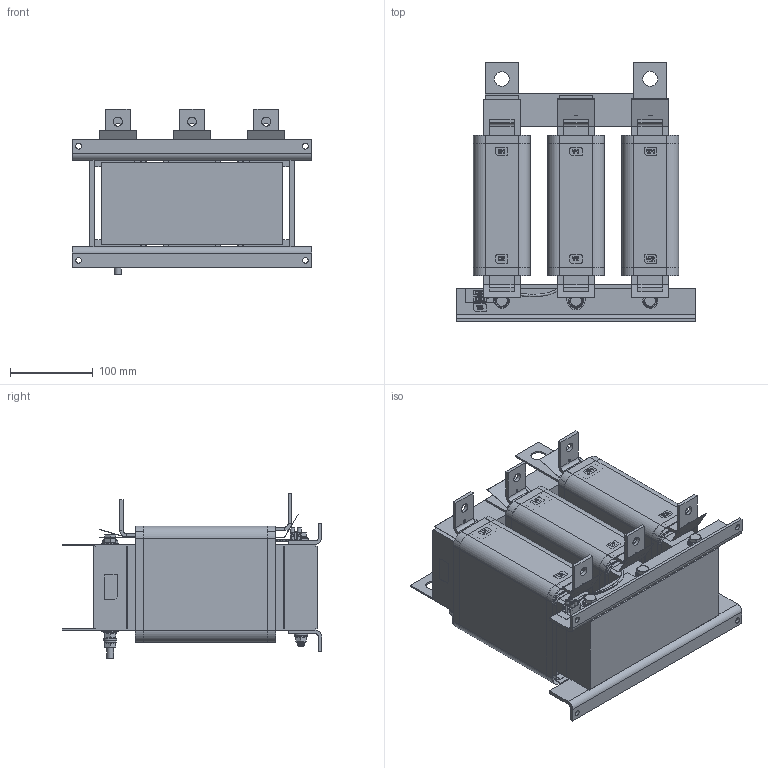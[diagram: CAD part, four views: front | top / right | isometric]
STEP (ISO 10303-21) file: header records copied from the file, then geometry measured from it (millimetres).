
FILE_DESCRIPTION(/* description */ ('raw material description'),/* implementation_level */ '2;1');
FILE_NAME(/* name */ 'C:\Users\Erika.Jenzer\Desktop\Neuer Ordner\FN5060HV-165-99.stp',/* time_stamp */ '2019-11-18T14:36:04+01:00',/* author */ ('erika.jenzer'),/* organization */ ('Schaffner EMV AG'),/* preprocessor_version */ 'ST-DEVELOPER v16.5',/* originating_system */ 'Autodesk Inventor 2017',/* authorisation */ '');
FILE_SCHEMA (('AUTOMOTIVE_DESIGN { 1 0 10303 214 3 1 1 }'));
Products named in the file (1): FN5060HV-165-99
Bounding box: 290 x 314.07 x 200.54 mm (x, y, z)
Volume: 5940375.1 mm3; surface area: 1286126.9 mm2
Topology: 41 solids, 49 shells, 1896 faces, 4951 edges, 3230 vertices
Faces by surface type: plane 1267, cylinder 407, cone 130, bspline 73, torus 18, sphere 1
Full cylindrical faces by diameter (mm): 0.01 x4, 0.65 x1, 1 x3, 2 x2, 2.5 x1, 2.8 x11, 3 x2, 3.4 x4, 7 x4, 8 x13, 8.2 x6, 8.4 x13, 9.9 x5, 10.5 x3, 11 x16, 11.4 x6, 13 x1, 16 x11, 18 x7, 20 x2
Entity records: 60748 total; most frequent: CARTESIAN_POINT 13220, ORIENTED_EDGE 9448, DIRECTION 9078, EDGE_CURVE 4717, LINE 3334, VECTOR 3334, VERTEX_POINT 3171, AXIS2_PLACEMENT_3D 2872
